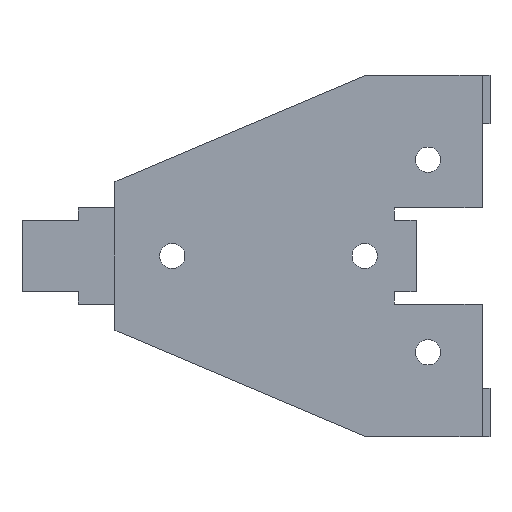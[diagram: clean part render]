
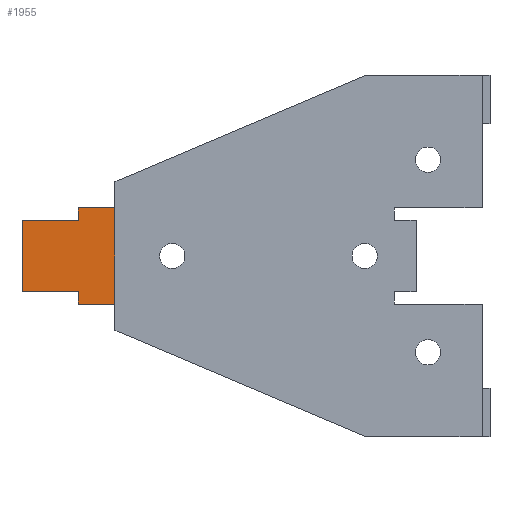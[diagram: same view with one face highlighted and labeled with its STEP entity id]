
A CAD part, left-side view. The second image highlights one B-rep face of the part: STEP entity #1955.
In plain terms, the highlighted planar face has unit normal (-1, 0, 0).
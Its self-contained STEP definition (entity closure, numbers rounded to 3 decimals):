
#3 = AXIS2_PLACEMENT_3D ( 'NONE', #988, #959, #960 ) ;
#229 = EDGE_CURVE ( 'NONE', #1727, #1688, #766, .T. ) ;
#240 = EDGE_CURVE ( 'NONE', #1746, #1689, #793, .T. ) ;
#416 = ORIENTED_EDGE ( 'NONE', *, *, #3972, .T. ) ;
#417 = ORIENTED_EDGE ( 'NONE', *, *, #240, .T. ) ;
#418 = ORIENTED_EDGE ( 'NONE', *, *, #4065, .T. ) ;
#419 = ORIENTED_EDGE ( 'NONE', *, *, #229, .F. ) ;
#420 = ORIENTED_EDGE ( 'NONE', *, *, #3962, .T. ) ;
#421 = ORIENTED_EDGE ( 'NONE', *, *, #4107, .T. ) ;
#422 = ORIENTED_EDGE ( 'NONE', *, *, #4089, .F. ) ;
#423 = ORIENTED_EDGE ( 'NONE', *, *, #4094, .F. ) ;
#766 = LINE ( 'NONE', #1483, #775 ) ;
#775 = VECTOR ( 'NONE', #1476, 1000. ) ;
#793 = LINE ( 'NONE', #1459, #794 ) ;
#794 = VECTOR ( 'NONE', #1458, 1000. ) ;
#959 = DIRECTION ( 'NONE',  ( 1., 0., 0. ) ) ;
#960 = DIRECTION ( 'NONE',  ( 0., 0., -1. ) ) ;
#988 = CARTESIAN_POINT ( 'NONE',  ( 1.5, 58.1, 30. ) ) ;
#996 = PLANE ( 'NONE',  #3 ) ;
#1272 = CARTESIAN_POINT ( 'NONE',  ( 1.5, 52., 8. ) ) ;
#1297 = CARTESIAN_POINT ( 'NONE',  ( 1.5, 58.1, -8. ) ) ;
#1298 = CARTESIAN_POINT ( 'NONE',  ( 1.5, 52., -8. ) ) ;
#1329 = CARTESIAN_POINT ( 'NONE',  ( 1.5, 58.1, 8. ) ) ;
#1331 = CARTESIAN_POINT ( 'NONE',  ( 1.5, 58.1, 5.9 ) ) ;
#1350 = CARTESIAN_POINT ( 'NONE',  ( 1.5, 58.1, -5.9 ) ) ;
#1388 = CARTESIAN_POINT ( 'NONE',  ( 1.5, 67.45, 5.9 ) ) ;
#1389 = CARTESIAN_POINT ( 'NONE',  ( 1.5, 67.45, -5.9 ) ) ;
#1458 = DIRECTION ( 'NONE',  ( 0., 1., 0. ) ) ;
#1459 = CARTESIAN_POINT ( 'NONE',  ( 1.5, 67.45, 5.9 ) ) ;
#1476 = DIRECTION ( 'NONE',  ( 0., 1., 0. ) ) ;
#1483 = CARTESIAN_POINT ( 'NONE',  ( 1.5, 67.45, -5.9 ) ) ;
#1688 = VERTEX_POINT ( 'NONE', #1389 ) ;
#1689 = VERTEX_POINT ( 'NONE', #1388 ) ;
#1727 = VERTEX_POINT ( 'NONE', #1350 ) ;
#1746 = VERTEX_POINT ( 'NONE', #1331 ) ;
#1748 = VERTEX_POINT ( 'NONE', #1329 ) ;
#1779 = VERTEX_POINT ( 'NONE', #1298 ) ;
#1780 = VERTEX_POINT ( 'NONE', #1297 ) ;
#1805 = VERTEX_POINT ( 'NONE', #1272 ) ;
#1955 = ADVANCED_FACE ( 'NONE', ( #2265 ), #996, .F. ) ;
#2265 = FACE_OUTER_BOUND ( 'NONE', #2634, .T. ) ;
#2415 = LINE ( 'NONE', #3020, #2416 ) ;
#2416 = VECTOR ( 'NONE', #3021, 1000. ) ;
#2434 = LINE ( 'NONE', #3041, #2435 ) ;
#2435 = VECTOR ( 'NONE', #3042, 1000. ) ;
#2634 = EDGE_LOOP ( 'NONE', ( #416, #417, #418, #419, #420, #421, #422, #423 ) ) ;
#3020 = CARTESIAN_POINT ( 'NONE',  ( 1.5, 58.1, 30. ) ) ;
#3021 = DIRECTION ( 'NONE',  ( 0., 0., -1. ) ) ;
#3041 = CARTESIAN_POINT ( 'NONE',  ( 1.5, 58.1, 30. ) ) ;
#3042 = DIRECTION ( 'NONE',  ( 0., 0., -1. ) ) ;
#3236 = CARTESIAN_POINT ( 'NONE',  ( 1.5, 67.45, 15.37 ) ) ;
#3237 = DIRECTION ( 'NONE',  ( 0., 0., -1. ) ) ;
#3287 = CARTESIAN_POINT ( 'NONE',  ( 1.5, 52., 30. ) ) ;
#3288 = DIRECTION ( 'NONE',  ( 0., 0., -1. ) ) ;
#3297 = CARTESIAN_POINT ( 'NONE',  ( 1.5, 52., 8. ) ) ;
#3298 = DIRECTION ( 'NONE',  ( 0., -1., 0. ) ) ;
#3326 = CARTESIAN_POINT ( 'NONE',  ( 1.5, 58.1, -8. ) ) ;
#3327 = DIRECTION ( 'NONE',  ( 0., -1., 0. ) ) ;
#3603 = LINE ( 'NONE', #3236, #3604 ) ;
#3604 = VECTOR ( 'NONE', #3237, 1000. ) ;
#3648 = LINE ( 'NONE', #3287, #3649 ) ;
#3649 = VECTOR ( 'NONE', #3288, 1000. ) ;
#3658 = LINE ( 'NONE', #3297, #3659 ) ;
#3659 = VECTOR ( 'NONE', #3298, 1000. ) ;
#3682 = LINE ( 'NONE', #3326, #3683 ) ;
#3683 = VECTOR ( 'NONE', #3327, 1000. ) ;
#3962 = EDGE_CURVE ( 'NONE', #1727, #1780, #2415, .T. ) ;
#3972 = EDGE_CURVE ( 'NONE', #1748, #1746, #2434, .T. ) ;
#4065 = EDGE_CURVE ( 'NONE', #1689, #1688, #3603, .T. ) ;
#4089 = EDGE_CURVE ( 'NONE', #1805, #1779, #3648, .T. ) ;
#4094 = EDGE_CURVE ( 'NONE', #1748, #1805, #3658, .T. ) ;
#4107 = EDGE_CURVE ( 'NONE', #1780, #1779, #3682, .T. ) ;
